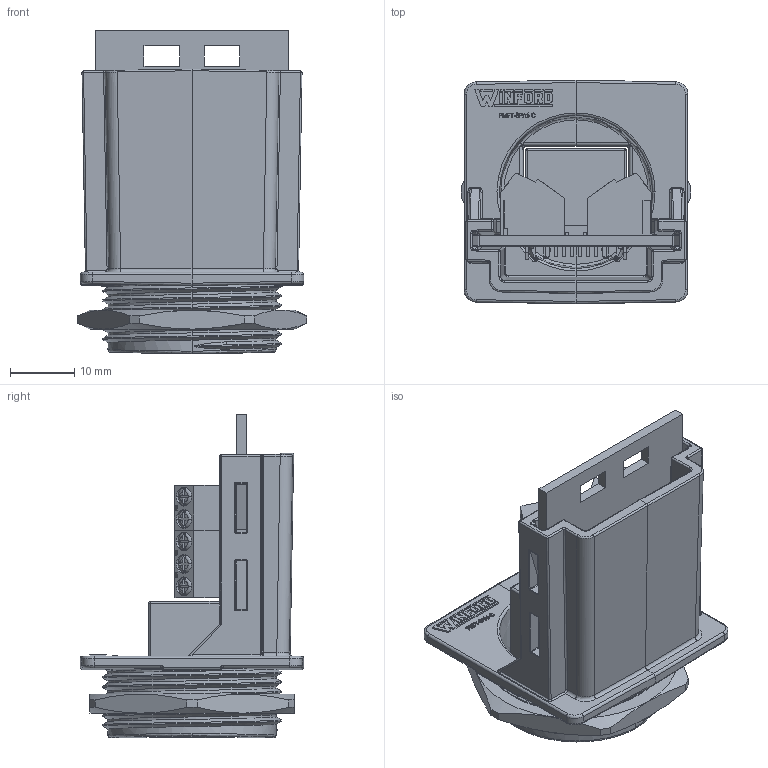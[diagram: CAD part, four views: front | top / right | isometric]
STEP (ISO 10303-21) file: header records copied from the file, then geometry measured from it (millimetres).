
FILE_DESCRIPTION (( 'STEP AP214' ), '1' );
FILE_NAME ('brkqa8pa-u_rev_a.step', '2023-06-09T17:10:41', ( '' ), ( '' ), 'SwSTEP 2.0', 'SolidWorks 2018', '' );
FILE_SCHEMA (( 'AUTOMOTIVE_DESIGN' ));
Length unit declared in the file: inch
Products named in the file (8): brkqa8pa_PCB; Modular Jack 8; PMFT-8PA1-C; M28x1.5 nut; brkqa8pa-u_rev_a; brkqa8pa_assembly; two_position_angled_green_screw_terminal; three_position_angled_green_screw_terminal
Assembly tree (9 placements, depth 3):
  brkqa8pa-u_rev_a
    PMFT-8PA1-C
    brkqa8pa_assembly
      brkqa8pa_PCB
      Modular Jack 8
      three_position_angled_green_screw_terminal
      two_position_angled_green_screw_terminal  x3
    M28x1.5 nut
Bounding box: 35.88 x 34.92 x 50.47 mm (x, y, z)
Volume: 15063.8 mm3; surface area: 17809.7 mm2
Topology: 9 solids, 16 shells, 3190 faces, 8427 edges, 5433 vertices
Faces by surface type: plane 1982, bspline 623, cylinder 439, torus 78, cone 48, sphere 20
Entity records: 137304 total; most frequent: CARTESIAN_POINT 53129, ORIENTED_EDGE 14256, DIRECTION 10720, EDGE_CURVE 7128, VECTOR 4764, LINE 4764, VERTEX_POINT 4605, AXIS2_PLACEMENT_3D 2978
